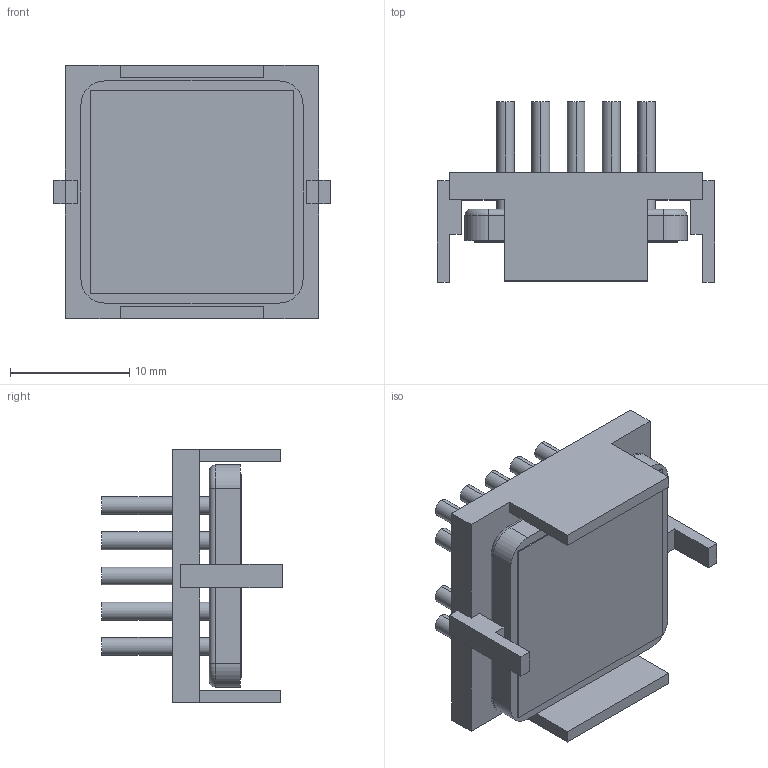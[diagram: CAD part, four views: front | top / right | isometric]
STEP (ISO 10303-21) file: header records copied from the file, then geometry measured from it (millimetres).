
FILE_DESCRIPTION (( 'STEP AP214' ), '1' );
FILE_NAME ('INM19002-12PCU-2.6Y.STEP', '2023-03-02T22:55:59', ( '' ), ( '' ), 'SwSTEP 2.0', 'SolidWorks 2020', '' );
FILE_SCHEMA (( 'AUTOMOTIVE_DESIGN' ));
Length unit declared in the file: millimetre
Products named in the file (1): INM19002-12PCU-2.6Y
Bounding box: 23.2 x 15.1 x 21.2 mm (x, y, z)
Volume: 2090.5 mm3; surface area: 3712.4 mm2
Topology: 3 solids, 3 shells, 133 faces, 310 edges, 204 vertices
Faces by surface type: plane 79, cylinder 50, torus 4
Entity records: 5323 total; most frequent: DIRECTION 682, CARTESIAN_POINT 648, ORIENTED_EDGE 620, EDGE_CURVE 310, AXIS2_PLACEMENT_3D 238, LINE 206, VECTOR 206, VERTEX_POINT 204
